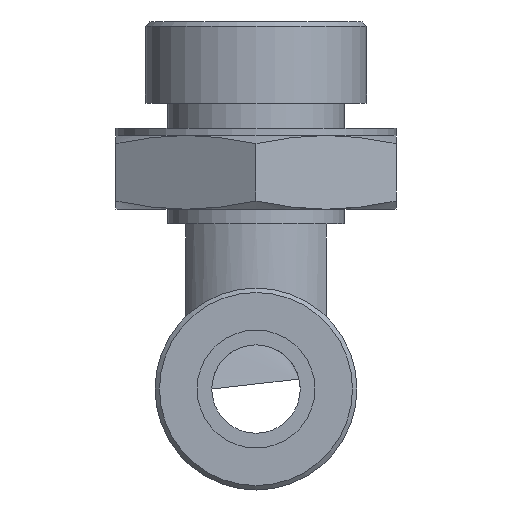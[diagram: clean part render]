
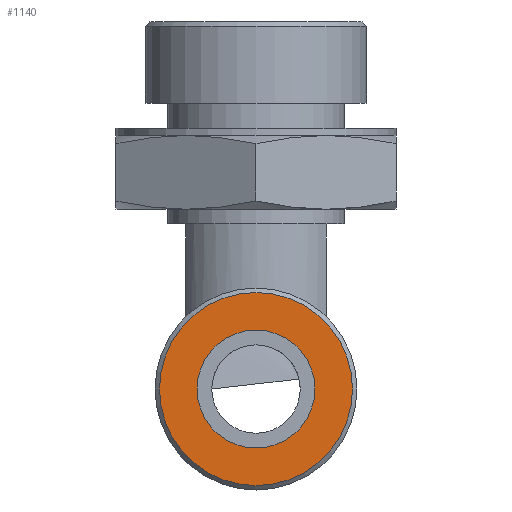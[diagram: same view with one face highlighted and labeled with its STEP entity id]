
A CAD part, front view. The second image highlights one B-rep face of the part: STEP entity #1140.
In plain terms, the highlighted planar face has unit normal (0, -1, 0).
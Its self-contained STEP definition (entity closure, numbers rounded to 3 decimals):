
#85=FACE_BOUND('',#267,.T.);
#114=PLANE('',#1347);
#182=FACE_OUTER_BOUND('',#266,.T.);
#266=EDGE_LOOP('',(#965));
#267=EDGE_LOOP('',(#966));
#412=CIRCLE('',#1266,4.);
#447=CIRCLE('',#1344,6.55);
#496=VERTEX_POINT('',#1851);
#553=VERTEX_POINT('',#2088);
#606=EDGE_CURVE('',#496,#496,#412,.T.);
#698=EDGE_CURVE('',#553,#553,#447,.T.);
#965=ORIENTED_EDGE('',*,*,#698,.F.);
#966=ORIENTED_EDGE('',*,*,#606,.T.);
#1140=ADVANCED_FACE('',(#182,#85),#114,.F.);
#1266=AXIS2_PLACEMENT_3D('',#1852,#1475,#1476);
#1344=AXIS2_PLACEMENT_3D('',#2090,#1662,#1663);
#1347=AXIS2_PLACEMENT_3D('',#2095,#1669,#1670);
#1475=DIRECTION('center_axis',(0.,1.,0.));
#1476=DIRECTION('ref_axis',(1.,0.,0.));
#1662=DIRECTION('center_axis',(0.,1.,0.));
#1663=DIRECTION('ref_axis',(-1.,0.,0.));
#1669=DIRECTION('center_axis',(0.,1.,0.));
#1670=DIRECTION('ref_axis',(0.,0.,1.));
#1851=CARTESIAN_POINT('',(-4.,-22.2,0.));
#1852=CARTESIAN_POINT('Origin',(0.,-22.2,0.));
#2088=CARTESIAN_POINT('',(6.55,-22.2,0.));
#2090=CARTESIAN_POINT('Origin',(0.,-22.2,0.));
#2095=CARTESIAN_POINT('Origin',(0.,-22.2,0.));
